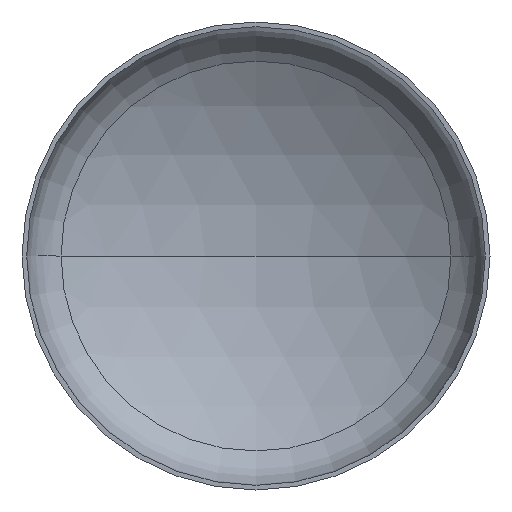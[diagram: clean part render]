
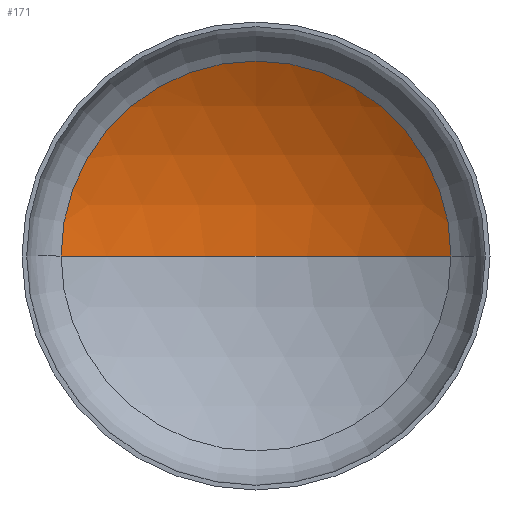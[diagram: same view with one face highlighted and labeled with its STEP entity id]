
A CAD part, front view. The second image highlights one B-rep face of the part: STEP entity #171.
In plain terms, the highlighted spherical face has radius 2560 mm.
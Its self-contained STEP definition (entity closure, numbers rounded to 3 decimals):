
#2 = VERTEX_POINT ( 'NONE', #260 ) ;
#9 = EDGE_LOOP ( 'NONE', ( #39, #201, #137 ) ) ;
#13 = DIRECTION ( 'NONE',  ( -1., 0., 0. ) ) ;
#17 = AXIS2_PLACEMENT_3D ( 'NONE', #253, #159, #360 ) ;
#23 = AXIS2_PLACEMENT_3D ( 'NONE', #315, #173, #174 ) ;
#31 = CARTESIAN_POINT ( 'NONE',  ( 0., -1667.149, 0. ) ) ;
#33 = VERTEX_POINT ( 'NONE', #287 ) ;
#38 = AXIS2_PLACEMENT_3D ( 'NONE', #165, #166, #168 ) ;
#39 = ORIENTED_EDGE ( 'NONE', *, *, #344, .F. ) ;
#55 = VERTEX_POINT ( 'NONE', #239 ) ;
#64 = AXIS2_PLACEMENT_3D ( 'NONE', #31, #193, #13 ) ;
#137 = ORIENTED_EDGE ( 'NONE', *, *, #350, .T. ) ;
#159 = DIRECTION ( 'NONE',  ( 0., 0., -1. ) ) ;
#165 = CARTESIAN_POINT ( 'NONE',  ( 0., -1667.149, 0. ) ) ;
#166 = DIRECTION ( 'NONE',  ( 0., 0., 1. ) ) ;
#168 = DIRECTION ( 'NONE',  ( 1., 0., 0. ) ) ;
#170 = SPHERICAL_SURFACE ( 'NONE', #64, 2560. ) ;
#171 = ADVANCED_FACE ( 'NONE', ( #292 ), #170, .F. ) ;
#173 = DIRECTION ( 'NONE',  ( 0., -1., 0. ) ) ;
#174 = DIRECTION ( 'NONE',  ( 1., 0., 0. ) ) ;
#193 = DIRECTION ( 'NONE',  ( 0., 0., -1. ) ) ;
#201 = ORIENTED_EDGE ( 'NONE', *, *, #355, .T. ) ;
#206 = CIRCLE ( 'NONE', #17, 2560. ) ;
#239 = CARTESIAN_POINT ( 'NONE',  ( -1333.179, 518.311, 0. ) ) ;
#253 = CARTESIAN_POINT ( 'NONE',  ( 0., -1667.149, 0. ) ) ;
#260 = CARTESIAN_POINT ( 'NONE',  ( 1333.179, 518.311, 0. ) ) ;
#268 = CIRCLE ( 'NONE', #38, 2560. ) ;
#287 = CARTESIAN_POINT ( 'NONE',  ( 0., 892.851, 0. ) ) ;
#292 = FACE_OUTER_BOUND ( 'NONE', #9, .T. ) ;
#315 = CARTESIAN_POINT ( 'NONE',  ( 0., 518.311, 0. ) ) ;
#321 = CIRCLE ( 'NONE', #23, 1333.179 ) ;
#344 = EDGE_CURVE ( 'NONE', #33, #55, #268, .T. ) ;
#350 = EDGE_CURVE ( 'NONE', #2, #55, #321, .T. ) ;
#355 = EDGE_CURVE ( 'NONE', #33, #2, #206, .T. ) ;
#360 = DIRECTION ( 'NONE',  ( -1., 0., 0. ) ) ;
